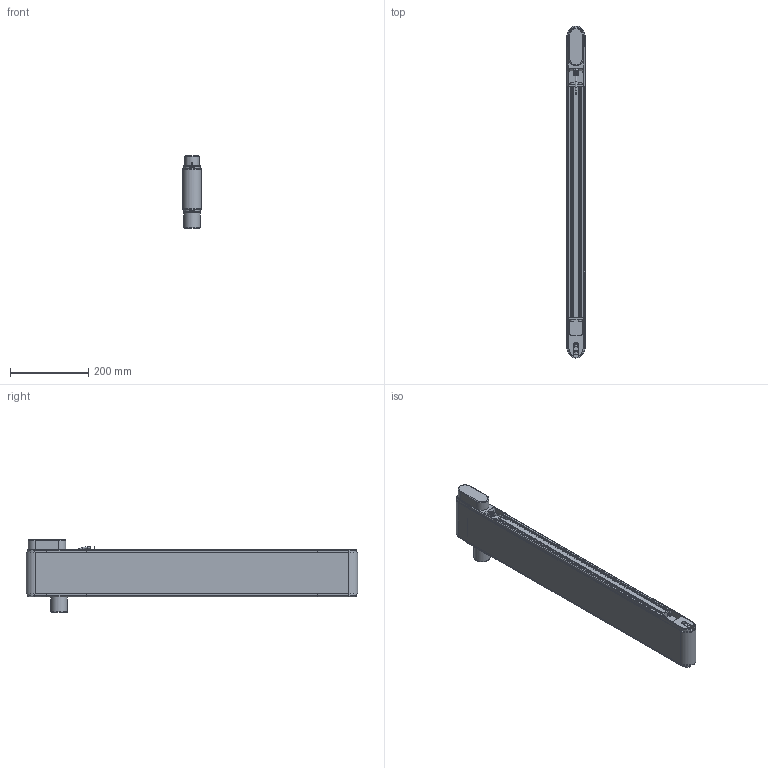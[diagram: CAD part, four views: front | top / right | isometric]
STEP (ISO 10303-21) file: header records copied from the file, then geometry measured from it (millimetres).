
FILE_DESCRIPTION(/* description */ (''),/* implementation_level */ '2;1');
FILE_NAME(/* name */ 'G:\DATEN\CAD\Förderband\Marketing\3D-Modelle (Standard)\FR-40-120-Q\FR-40-120-Q-800-K (Motorendrohr 40 mm).stp',/* time_stamp */ '2019-05-09T08:32:17+02:00',/* author */ ('melanie.ochs'),/* organization */ (''),/* preprocessor_version */ 'ST-DEVELOPER v17',/* originating_system */ 'Autodesk Inventor 2019',/* authorisation */ '');
FILE_SCHEMA (('CONFIG_CONTROL_DESIGN'));
Length unit declared in the file: centimetre
Products named in the file (1): FR-40-120-Q-800-K (Motorendrohr 40 mm)
Bounding box: 46.6 x 846.6 x 185 mm (x, y, z)
Volume: 1992213 mm3; surface area: 1057341.9 mm2
Topology: 31 solids, 32 shells, 877 faces, 2377 edges, 1616 vertices
Faces by surface type: plane 441, cylinder 278, cone 67, bspline 61, torus 30
Full cylindrical faces by diameter (mm): 1 x6, 4 x6, 4.3 x4, 4.65 x1, 4.917 x1, 5 x11, 5.5 x8, 6 x2, 6.5 x1, 6.773 x1, 6.917 x2, 8 x7, 8.3 x12, 8.5 x8, 8.773 x1, 10 x1, 11 x1, 12 x3, 25 x2, 28 x4, 40.917 x1, 42 x1, 44 x2
Entity records: 29419 total; most frequent: CARTESIAN_POINT 6209, ORIENTED_EDGE 4718, DIRECTION 4580, EDGE_CURVE 2359, AXIS2_PLACEMENT_3D 1661, VERTEX_POINT 1616, LINE 1258, VECTOR 1258
